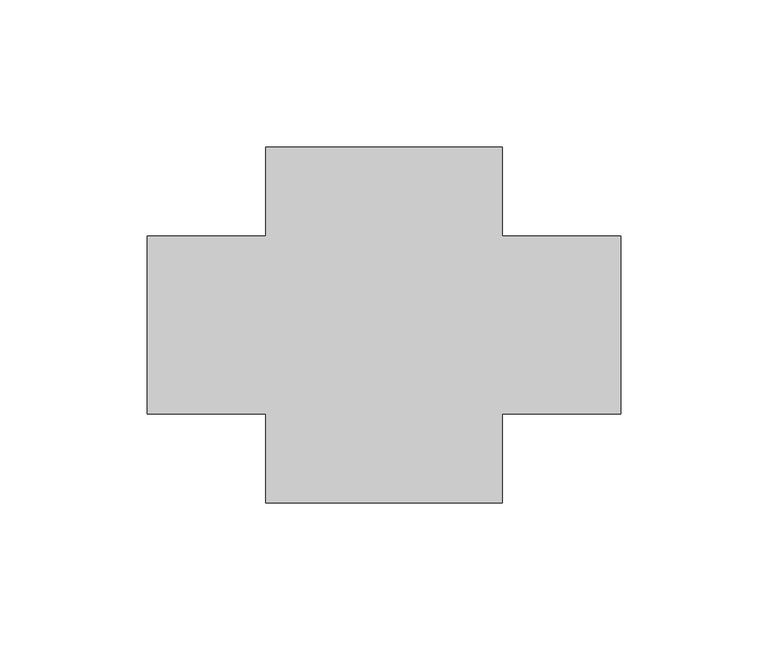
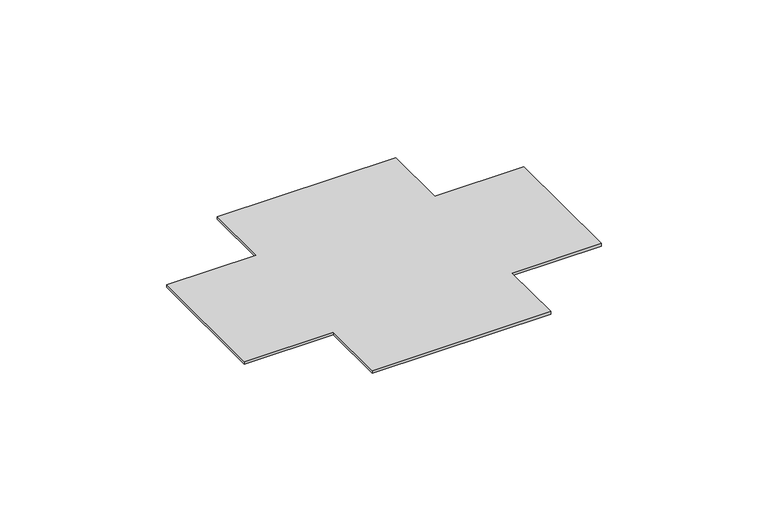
"""IFC4 building model written with IfcOpenShell, lengths in millimetres: cable carrier fitting geometry, КНС_ПластинаМонтажная_DKC : для коробок 190х140мм."""

from ifc_helpers import new_model, si_unit, origin, origin_with_axes, place, context, project, spatial, polyline, outline, extrude, source, transform, mapped, element, save


def cable_carrier_fitting_f05b5040(model_context):
    return source(origin(), model_context, "Body", "SweptSolid", [
        extrude(outline(polyline([(40.25, 60.5), (40.25, 30.25), (80.5, 30.25), (80.5, -30.25), (40.25, -30.25), (40.25, -60.5), (-40.25, -60.5), (-40.25, -30.25), (-80.5, -30.25), (-80.5, 30.25), (-40.25, 30.25), (-40.25, 60.5), (40.25, 60.5)])), origin_with_axes(), (0.0, 0.0, 1.0), 1.3),
    ])


if __name__ == "__main__":
    model = new_model("IFC4")
    model_context = context("Model", 3, world=origin())
    ifc_project = project(units=[si_unit("LENGTHUNIT", "METRE", prefix="MILLI")], contexts=[model_context])
    site = spatial("IfcSite", under=ifc_project)
    building = spatial("IfcBuilding", under=site)
    placement = place(None, origin())
    cable_carrier_fitting_shape = cable_carrier_fitting_f05b5040(model_context)
    element("IfcCableCarrierFitting", 1, ObjectType="КНС_ПластинаМонтажная_DKC : для коробок 190х140мм", at=placement, inside=building, context=model_context, shape_type="MappedRepresentation", body=[
        mapped(cable_carrier_fitting_shape, transform((0.0, 0.0, 0.0), x_axis=(1.0, 0.0, 0.0), y_axis=(0.0, 1.0, 0.0), z_axis=(0.0, 0.0, 1.0))),
    ])
    save(model, "model.ifc")
